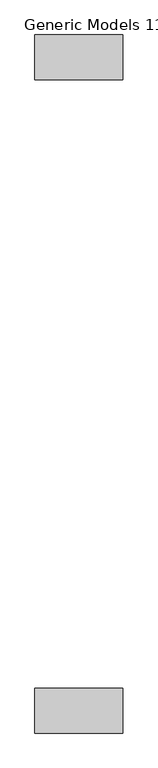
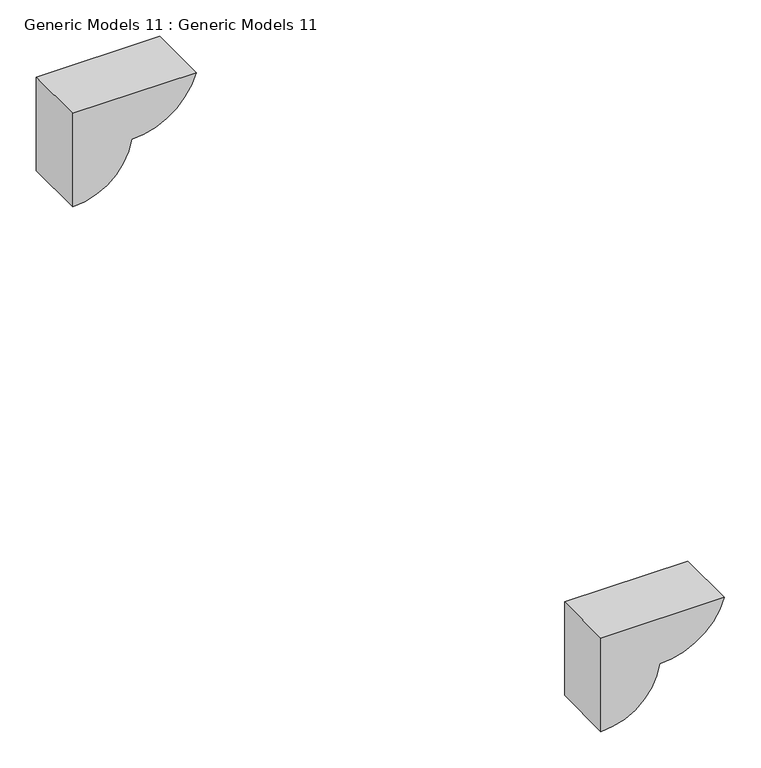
"""IFC4 building model written with IfcOpenShell, lengths in millimetres: proxy geometry, Generic Models 11 : Generic Models 11."""

from ifc_helpers import new_model, si_unit, point, frame, frame_2d, origin, place, context, project, spatial, polyline, circle_curve, trimmed, segment, composite_curve, outline, extrude, source, transform, mapped, element, save


def generic_models_11_generic_models_11_82f0c10e(model_context):
    return source(origin(), model_context, "Body", "SweptSolid", [
        extrude(outline(composite_curve([segment(trimmed(circle_curve(frame_2d((930.4875198, 13093.9338768)), 106.0660172), [point((824.4251456, 13093.0547918))], [point((900.0, 13195.5237933))], False, "CARTESIAN"), True, "CONTINUOUS"), segment(polyline([(900.0, 13195.5237933), (900.0, 13000.0001123), (743.3124077, 13000.0001123)]), True, "CONTINUOUS"), segment(trimmed(circle_curve(frame_2d((837.2461723, 13000.0001123)), 93.9337645), [point((743.3124077, 13000.0001123))], [point((824.4251456, 13093.0547918))], False, "CARTESIAN"), True, "CONTINUOUS")], self_intersect=False)), frame((0.0, 10353.4977909, 0.0), z_axis=(0.0, 1.0, 0.0), x_axis=(0.0, 0.0, 1.0)), (0.0, 0.0, 1.0), 100.0),
        extrude(outline(composite_curve([segment(trimmed(circle_curve(frame_2d((930.4875198, 13093.9338768)), 106.0660172), [point((824.4251456, 13093.0547918))], [point((900.0, 13195.5237933))], False, "CARTESIAN"), True, "CONTINUOUS"), segment(polyline([(900.0, 13195.5237933), (900.0, 13000.0001123), (743.3124077, 13000.0001123)]), True, "CONTINUOUS"), segment(trimmed(circle_curve(frame_2d((837.2461723, 13000.0001123)), 93.9337645), [point((743.3124077, 13000.0001123))], [point((824.4251456, 13093.0547918))], False, "CARTESIAN"), True, "CONTINUOUS")], self_intersect=False)), frame((0.0, 11803.4977909, 0.0), z_axis=(0.0, 1.0, 0.0), x_axis=(0.0, 0.0, 1.0)), (0.0, 0.0, 1.0), 100.0),
    ])


if __name__ == "__main__":
    model = new_model("IFC4")
    model_context = context("Model", 3, world=origin())
    ifc_project = project(units=[si_unit("LENGTHUNIT", "METRE", prefix="MILLI")], contexts=[model_context])
    site = spatial("IfcSite", under=ifc_project)
    building = spatial("IfcBuilding", under=site)
    placement = place(None, origin())
    generic_models_11_generic_models_11_shape = generic_models_11_generic_models_11_82f0c10e(model_context)
    element("IfcBuildingElementProxy", 1, Name="Generic Models 11 : Generic Models 11", ObjectType="Generic Models 11 : Generic Models 11", at=placement, inside=building, context=model_context, shape_type="MappedRepresentation", body=[
        mapped(generic_models_11_generic_models_11_shape, transform((0.0, 0.0, 0.0), x_axis=(1.0, 0.0, 0.0), y_axis=(0.0, 1.0, 0.0), z_axis=(0.0, 0.0, 1.0))),
    ])
    save(model, "model.ifc")
